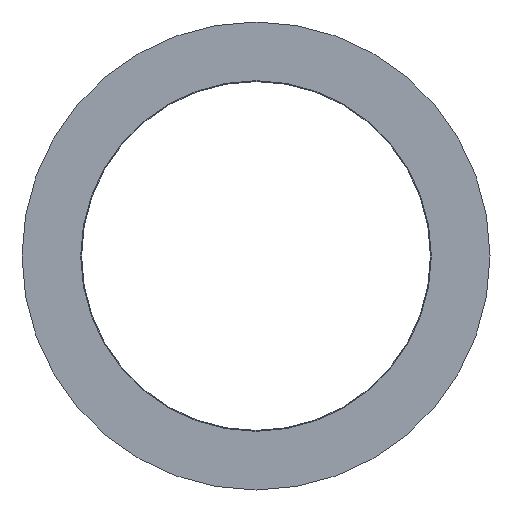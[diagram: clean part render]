
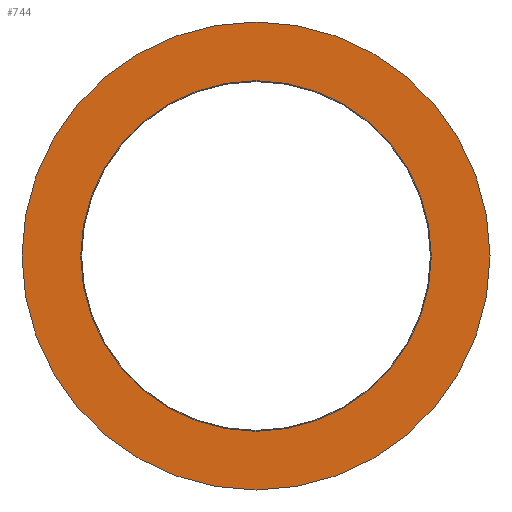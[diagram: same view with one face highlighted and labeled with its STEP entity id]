
A CAD part, left-side view. The second image highlights one B-rep face of the part: STEP entity #744.
In plain terms, the highlighted planar face has unit normal (-1, 0, 0).
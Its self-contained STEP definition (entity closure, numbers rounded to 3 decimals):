
#130=CARTESIAN_POINT('',(0.0,20.6,0.0));
#131=VERTEX_POINT('',#130);
#140=CARTESIAN_POINT('',(0.0,-20.6,0.));
#141=VERTEX_POINT('',#140);
#142=CARTESIAN_POINT('',(0.0,0.0,0.0));
#143=DIRECTION('',(1.0,0.0,0.0));
#144=DIRECTION('',(0.0,1.0,0.0));
#145=AXIS2_PLACEMENT_3D('',#142,#143,#144);
#146=CIRCLE('',#145,20.6);
#147=EDGE_CURVE('',#141,#131,#146,.T.);
#214=CARTESIAN_POINT('',(0.0,27.5,0.0));
#215=VERTEX_POINT('',#214);
#224=CARTESIAN_POINT('',(0.0,-27.5,0.));
#225=VERTEX_POINT('',#224);
#226=CARTESIAN_POINT('',(0.0,0.0,0.0));
#227=DIRECTION('',(1.0,0.0,0.0));
#228=DIRECTION('',(0.0,1.0,0.0));
#229=AXIS2_PLACEMENT_3D('',#226,#227,#228);
#230=CIRCLE('',#229,27.5);
#231=EDGE_CURVE('',#215,#225,#230,.T.);
#645=CARTESIAN_POINT('',(0.0,0.0,0.0));
#646=DIRECTION('',(1.0,0.0,0.0));
#647=DIRECTION('',(0.0,1.0,0.0));
#648=AXIS2_PLACEMENT_3D('',#645,#646,#647);
#649=CIRCLE('',#648,27.5);
#650=EDGE_CURVE('',#225,#215,#649,.T.);
#721=CARTESIAN_POINT('',(0.0,0.0,0.0));
#722=DIRECTION('',(1.0,0.0,0.0));
#723=DIRECTION('',(0.0,1.0,0.0));
#724=AXIS2_PLACEMENT_3D('',#721,#722,#723);
#725=CIRCLE('',#724,20.6);
#726=EDGE_CURVE('',#131,#141,#725,.T.);
#731=CARTESIAN_POINT('',(0.0,24.05,0.0));
#732=DIRECTION('',(-1.0,0.0,0.0));
#733=DIRECTION('',(0.0,0.0,1.0));
#734=AXIS2_PLACEMENT_3D('',#731,#732,#733);
#735=PLANE('',#734);
#736=ORIENTED_EDGE('',*,*,#231,.F.);
#737=ORIENTED_EDGE('',*,*,#650,.F.);
#738=EDGE_LOOP('',(#736,#737));
#739=FACE_OUTER_BOUND('',#738,.T.);
#740=ORIENTED_EDGE('',*,*,#726,.T.);
#741=ORIENTED_EDGE('',*,*,#147,.T.);
#742=EDGE_LOOP('',(#740,#741));
#743=FACE_BOUND('',#742,.T.);
#744=ADVANCED_FACE('',(#739,#743),#735,.T.);
